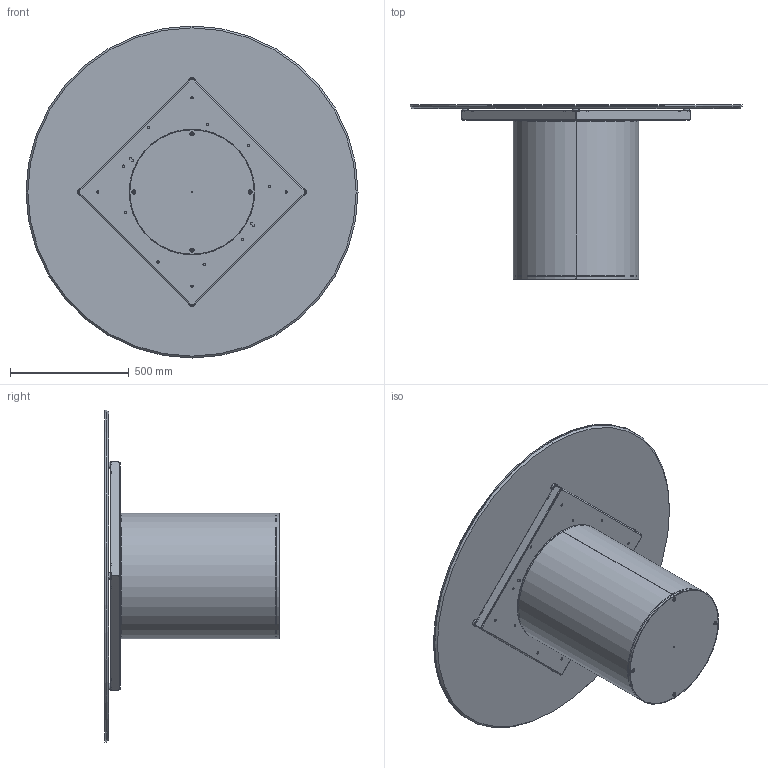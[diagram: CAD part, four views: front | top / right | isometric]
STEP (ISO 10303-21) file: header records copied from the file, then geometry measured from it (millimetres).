
FILE_DESCRIPTION (( 'STEP AP203' ), '1' );
FILE_NAME ('CI06C.STEP', '2024-08-08T07:00:27', ( '' ), ( '' ), 'SwSTEP 2.0', 'SolidWorks 2022', '' );
FILE_SCHEMA (( 'CONFIG_CONTROL_DESIGN' ));
Length unit declared in the file: millimetre
Products named in the file (11): K1XCMXX-00-Piani Rotondi in ceramica_D.1400; TTAV0801 TELAIO UNIVERSALE TONDO-PIASTRINA; CI06C; M8xXXmm_hex_M8X20mm; COLLO TELAIO UNIVERSALE TTAV0801 CON FERRAMENTA_MTG TOP CRISTALLO VERNICIATO-CERAMICA; C2B000000_01-00-struttura cilindro D.530mm; TTAV0801-02-TELAIO UNIVERSALE TONDO; 434070-00-PIEDINO TPV GOMMA NERO D. 30x8max18_filo estetico; C2B000000-03-CILINDRO BASE D.530mm_Normale; TTAV0801-02-TELAIO UNIVERSALE TONDO-VASSOIO; C2B000000_02-01-ZAVORRA IN FERRO D.530mm
Assembly tree (19 placements, depth 4):
  CI06C
    C2B000000-03-CILINDRO BASE D.530mm_Normale
      C2B000000_01-00-struttura cilindro D.530mm
      C2B000000_02-01-ZAVORRA IN FERRO D.530mm
      M8xXXmm_hex_M8X20mm  x4
    COLLO TELAIO UNIVERSALE TTAV0801 CON FERRAMENTA_MTG TOP CRISTALLO VERNICIATO-CERAMICA
      TTAV0801-02-TELAIO UNIVERSALE TONDO
        TTAV0801-02-TELAIO UNIVERSALE TONDO-VASSOIO
        TTAV0801 TELAIO UNIVERSALE TONDO-PIASTRINA  x4
      434070-00-PIEDINO TPV GOMMA NERO D. 30x8max18_filo estetico  x4
    K1XCMXX-00-Piani Rotondi in ceramica_D.1400
Bounding box: 1400 x 736 x 1400 mm (x, y, z)
Volume: 31811209.2 mm3; surface area: 10351369.9 mm2
Topology: 24 solids, 24 shells, 710 faces, 1786 edges, 1116 vertices
Faces by surface type: plane 334, cylinder 304, cone 34, torus 24, sphere 14
Entity records: 15582 total; most frequent: DIRECTION 2601, CARTESIAN_POINT 2408, ORIENTED_EDGE 2358, EDGE_CURVE 1179, AXIS2_PLACEMENT_3D 942, VERTEX_POINT 749, VECTOR 717, LINE 717
